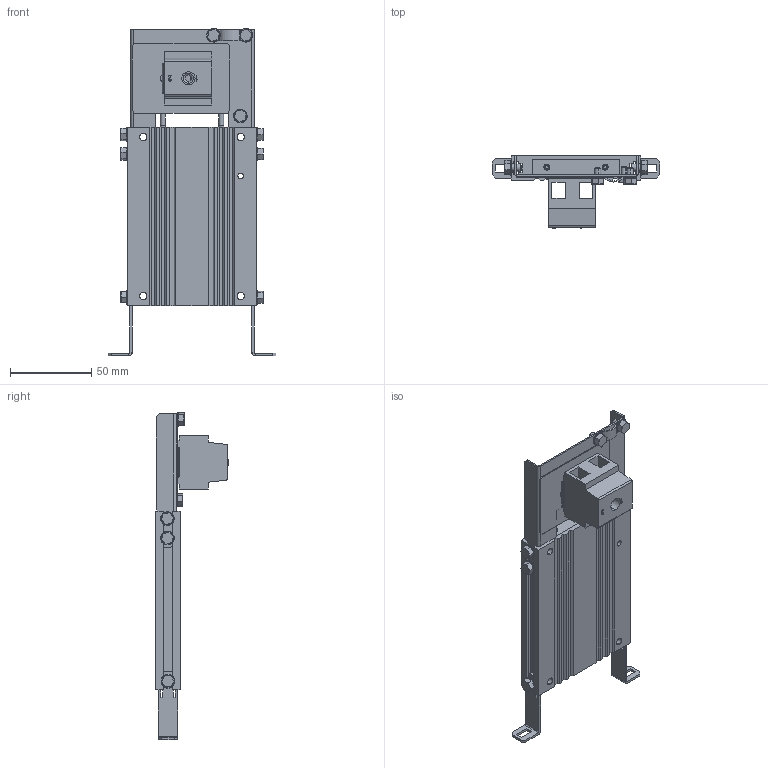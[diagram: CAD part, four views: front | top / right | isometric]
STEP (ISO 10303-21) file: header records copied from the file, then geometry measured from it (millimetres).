
FILE_DESCRIPTION (( 'STEP AP203' ), '1' );
FILE_NAME ('BAFP100-33-Step.STEP', '2011-09-13T07:39:00', ( 'Frizlen' ), ( 'Frizlen' ), 'SwSTEP 2.0', 'SolidWorks 2010', '' );
FILE_SCHEMA (( 'CONFIG_CONTROL_DESIGN' ));
Length unit declared in the file: millimetre
Products named in the file (13): Glimmerunterlage-G10_5-UL; Geräteklemme G10-2; Schelle-OBO-7903-33164; Abschlussdeckel Aluprofil SLDPRT_Aludeckel für 70x15 ohne Bohrung; Aluprofil GW_GW110x80; BAFP100-33-Step; GWAD110x80; Abschlussdeckel Aluprofil SLDPRT_Aludeckel für 70x15 mit Bohrung; Klemmkasten_G_HM; Leitung-FEP-AWG14-19-ws; Leitung-FEP-AWG14-19-gr; MW02; Gewindefurchschraube SK M4x6
Assembly tree (21 placements, depth 3):
  BAFP100-33-Step
    Gewindefurchschraube SK M4x6  x9
    Klemmkasten_G_HM
    Schelle-OBO-7903-33164
    MW02  x2
    Glimmerunterlage-G10_5-UL
    GWAD110x80
      Leitung-FEP-AWG14-19-ws
      Abschlussdeckel Aluprofil SLDPRT_Aludeckel für 70x15 mit Bohrung
      Abschlussdeckel Aluprofil SLDPRT_Aludeckel für 70x15 ohne Bohrung
      Leitung-FEP-AWG14-19-gr
      Aluprofil GW_GW110x80
    Geräteklemme G10-2
Bounding box: 103.5 x 44.65 x 201.64 mm (x, y, z)
Volume: 93311.8 mm3; surface area: 75718.3 mm2
Topology: 22 solids, 22 shells, 597 faces, 1448 edges, 916 vertices
Faces by surface type: plane 349, cylinder 170, torus 38, bspline 20, cone 18, sphere 2
Entity records: 13318 total; most frequent: CARTESIAN_POINT 2927, ORIENTED_EDGE 1840, DIRECTION 1738, EDGE_CURVE 920, LINE 674, VECTOR 674, VERTEX_POINT 600, AXIS2_PLACEMENT_3D 532
